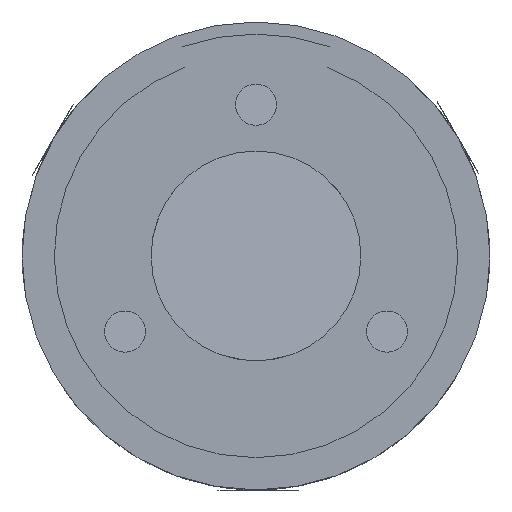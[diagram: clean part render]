
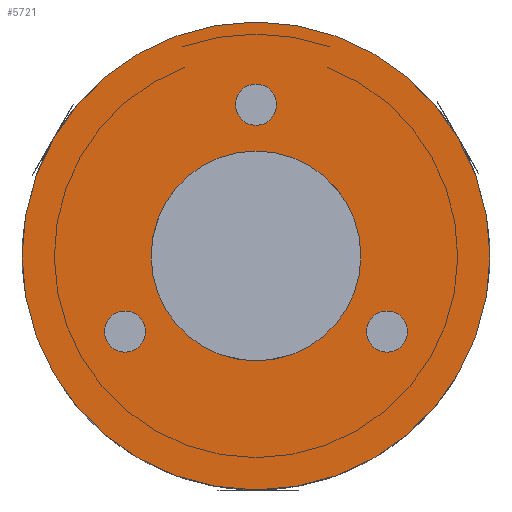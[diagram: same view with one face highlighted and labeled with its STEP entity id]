
A CAD part, front view. The second image highlights one B-rep face of the part: STEP entity #5721.
In plain terms, the highlighted planar face has unit normal (0, -1, 0).
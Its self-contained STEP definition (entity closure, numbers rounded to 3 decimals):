
#5472=CARTESIAN_POINT('',(0.,-300.5,0.));
#5473=DIRECTION('',(0.,-1.,0.));
#5474=DIRECTION('',(1.,0.,0.));
#5475=AXIS2_PLACEMENT_3D('',#5472,#5473,#5474);
#5477=CARTESIAN_POINT('',(0.,-300.5,0.));
#5478=DIRECTION('',(0.,-1.,0.));
#5479=DIRECTION('',(-1.,0.,0.));
#5480=AXIS2_PLACEMENT_3D('',#5477,#5478,#5479);
#5482=CARTESIAN_POINT('',(0.,-300.5,0.));
#5483=DIRECTION('',(0.,1.,0.));
#5484=DIRECTION('',(1.,0.,0.));
#5485=AXIS2_PLACEMENT_3D('',#5482,#5483,#5484);
#5487=CARTESIAN_POINT('',(0.,-300.5,0.));
#5488=DIRECTION('',(0.,1.,0.));
#5489=DIRECTION('',(-1.,0.,0.));
#5490=AXIS2_PLACEMENT_3D('',#5487,#5488,#5489);
#5492=CARTESIAN_POINT('',(0.,-300.5,18.75));
#5493=DIRECTION('',(0.,-1.,0.));
#5494=DIRECTION('',(1.,0.,0.));
#5495=AXIS2_PLACEMENT_3D('',#5492,#5493,#5494);
#5497=CARTESIAN_POINT('',(0.,-300.5,18.75));
#5498=DIRECTION('',(0.,-1.,0.));
#5499=DIRECTION('',(-1.,0.,0.));
#5500=AXIS2_PLACEMENT_3D('',#5497,#5498,#5499);
#5502=CARTESIAN_POINT('',(16.238,-300.5,-9.375));
#5503=DIRECTION('',(0.,-1.,0.));
#5504=DIRECTION('',(-0.5,0.,-0.866));
#5505=AXIS2_PLACEMENT_3D('',#5502,#5503,#5504);
#5507=CARTESIAN_POINT('',(16.238,-300.5,-9.375));
#5508=DIRECTION('',(0.,-1.,0.));
#5509=DIRECTION('',(0.5,0.,0.866));
#5510=AXIS2_PLACEMENT_3D('',#5507,#5508,#5509);
#5512=CARTESIAN_POINT('',(-16.238,-300.5,-9.375));
#5513=DIRECTION('',(0.,-1.,0.));
#5514=DIRECTION('',(-0.5,0.,0.866));
#5515=AXIS2_PLACEMENT_3D('',#5512,#5513,#5514);
#5517=CARTESIAN_POINT('',(-16.238,-300.5,-9.375));
#5518=DIRECTION('',(0.,-1.,0.));
#5519=DIRECTION('',(0.5,0.,-0.866));
#5520=AXIS2_PLACEMENT_3D('',#5517,#5518,#5519);
#5570=CARTESIAN_POINT('',(29.,-300.5,0.));
#5571=CARTESIAN_POINT('',(-29.,-300.5,0.));
#5572=VERTEX_POINT('',#5570);
#5573=VERTEX_POINT('',#5571);
#5574=CARTESIAN_POINT('',(13.,-300.5,0.));
#5575=CARTESIAN_POINT('',(-13.,-300.5,0.));
#5576=VERTEX_POINT('',#5574);
#5577=VERTEX_POINT('',#5575);
#5578=CARTESIAN_POINT('',(-2.55,-300.5,18.75));
#5579=CARTESIAN_POINT('',(2.55,-300.5,18.75));
#5580=VERTEX_POINT('',#5578);
#5581=VERTEX_POINT('',#5579);
#5582=CARTESIAN_POINT('',(17.513,-300.5,-7.167));
#5583=CARTESIAN_POINT('',(14.963,-300.5,-11.583));
#5584=VERTEX_POINT('',#5582);
#5585=VERTEX_POINT('',#5583);
#5586=CARTESIAN_POINT('',(-14.963,-300.5,-11.583));
#5587=CARTESIAN_POINT('',(-17.513,-300.5,-7.167));
#5588=VERTEX_POINT('',#5586);
#5589=VERTEX_POINT('',#5587);
#5688=CARTESIAN_POINT('',(0.,-300.5,0.));
#5689=DIRECTION('',(0.,-1.,0.));
#5690=DIRECTION('',(1.,0.,0.));
#5691=AXIS2_PLACEMENT_3D('',#5688,#5689,#5690);
#5692=PLANE('',#5691);
#5694=ORIENTED_EDGE('',*,*,#5693,.F.);
#5696=ORIENTED_EDGE('',*,*,#5695,.F.);
#5697=EDGE_LOOP('',(#5694,#5696));
#5698=FACE_OUTER_BOUND('',#5697,.F.);
#5699=ORIENTED_EDGE('',*,*,#5675,.F.);
#5700=ORIENTED_EDGE('',*,*,#5637,.F.);
#5701=EDGE_LOOP('',(#5699,#5700));
#5702=FACE_BOUND('',#5701,.F.);
#5704=ORIENTED_EDGE('',*,*,#5703,.T.);
#5706=ORIENTED_EDGE('',*,*,#5705,.T.);
#5707=EDGE_LOOP('',(#5704,#5706));
#5708=FACE_BOUND('',#5707,.F.);
#5710=ORIENTED_EDGE('',*,*,#5709,.T.);
#5712=ORIENTED_EDGE('',*,*,#5711,.T.);
#5713=EDGE_LOOP('',(#5710,#5712));
#5714=FACE_BOUND('',#5713,.F.);
#5716=ORIENTED_EDGE('',*,*,#5715,.T.);
#5718=ORIENTED_EDGE('',*,*,#5717,.T.);
#5719=EDGE_LOOP('',(#5716,#5718));
#5720=FACE_BOUND('',#5719,.F.);
#5721=ADVANCED_FACE('',(#5698,#5702,#5708,#5714,#5720),#5692,.T.);
#5476=CIRCLE('',#5475,29.);
#5481=CIRCLE('',#5480,29.);
#5486=CIRCLE('',#5485,13.);
#5491=CIRCLE('',#5490,13.);
#5496=CIRCLE('',#5495,2.55);
#5501=CIRCLE('',#5500,2.55);
#5506=CIRCLE('',#5505,2.55);
#5511=CIRCLE('',#5510,2.55);
#5516=CIRCLE('',#5515,2.55);
#5521=CIRCLE('',#5520,2.55);
#5637=EDGE_CURVE('',#5577,#5576,#5491,.T.);
#5675=EDGE_CURVE('',#5576,#5577,#5486,.T.);
#5693=EDGE_CURVE('',#5572,#5573,#5476,.T.);
#5695=EDGE_CURVE('',#5573,#5572,#5481,.T.);
#5703=EDGE_CURVE('',#5581,#5580,#5496,.T.);
#5705=EDGE_CURVE('',#5580,#5581,#5501,.T.);
#5709=EDGE_CURVE('',#5585,#5584,#5506,.T.);
#5711=EDGE_CURVE('',#5584,#5585,#5511,.T.);
#5715=EDGE_CURVE('',#5589,#5588,#5516,.T.);
#5717=EDGE_CURVE('',#5588,#5589,#5521,.T.);
